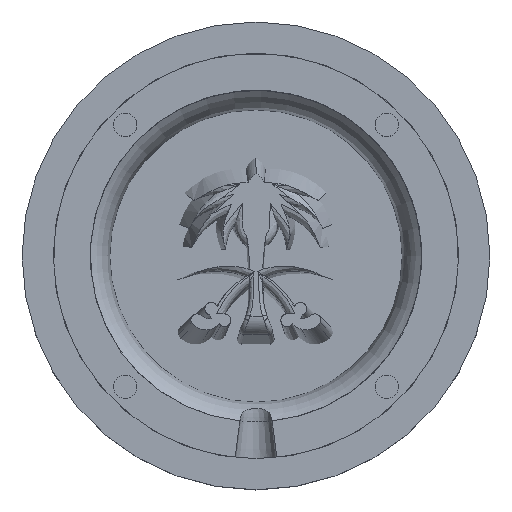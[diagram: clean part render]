
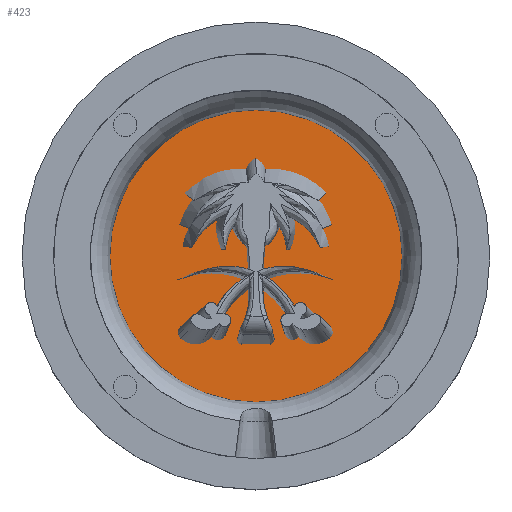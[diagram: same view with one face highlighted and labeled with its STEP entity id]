
A CAD part, top view. The second image highlights one B-rep face of the part: STEP entity #423.
In plain terms, the highlighted planar face has unit normal (0, 0, 1).
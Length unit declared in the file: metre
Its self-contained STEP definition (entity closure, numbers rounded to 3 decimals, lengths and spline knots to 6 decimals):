
#423 = ADVANCED_FACE( '', ( #874 ), #875, .T. );
#874 = FACE_OUTER_BOUND( '', #5880, .T. );
#875 = PLANE( '', #5881 );
#5880 = EDGE_LOOP( '', ( #8193 ) );
#5881 = AXIS2_PLACEMENT_3D( '', #8194, #8195, #8196 );
#8193 = ORIENTED_EDGE( '', *, *, #8751, .F. );
#8194 = CARTESIAN_POINT( '', ( 0., 0., 0.003 ) );
#8195 = DIRECTION( '', ( 0., 0., 1. ) );
#8196 = DIRECTION( '', ( 1., 0., 0. ) );
#8751 = EDGE_CURVE( '', #9542, #9542, #9543, .F. );
#9542 = VERTEX_POINT( '', #14096 );
#9543 = CIRCLE( '', #14097, 0.0375 );
#14096 = CARTESIAN_POINT( '', ( 0.0375, 0., 0.003 ) );
#14097 = AXIS2_PLACEMENT_3D( '', #14649, #14650, #14651 );
#14649 = CARTESIAN_POINT( '', ( 0., 0., 0.003 ) );
#14650 = DIRECTION( '', ( 0., 0., 1. ) );
#14651 = DIRECTION( '', ( 1., 0., 0. ) );
